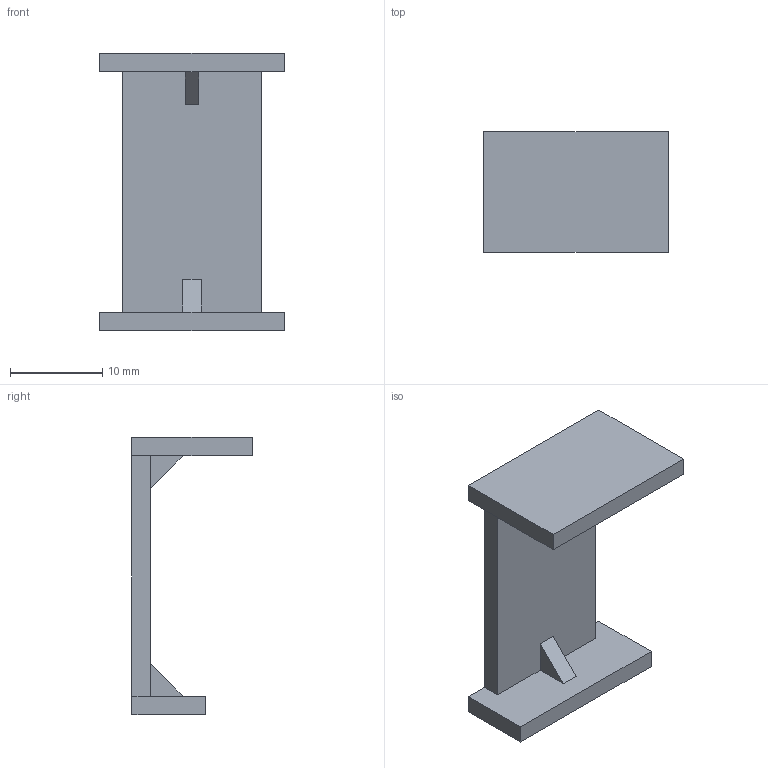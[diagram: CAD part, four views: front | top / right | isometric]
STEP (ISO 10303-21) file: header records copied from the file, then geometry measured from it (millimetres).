
FILE_DESCRIPTION (( 'STEP AP214' ), '1' );
FILE_NAME ('002310.STEP', '2022-02-21T07:36:43', ( '' ), ( '' ), 'SwSTEP 2.0', 'SolidWorks 2021', '' );
FILE_SCHEMA (( 'AUTOMOTIVE_DESIGN' ));
Length unit declared in the file: millimetre
Products named in the file (1): 002310
Bounding box: 20 x 13 x 30 mm (x, y, z)
Volume: 1641.9 mm3; surface area: 1925.8 mm2
Topology: 1 solids, 1 shells, 20 faces, 54 edges, 36 vertices
Faces by surface type: plane 20
Entity records: 652 total; most frequent: CARTESIAN_POINT 111, ORIENTED_EDGE 108, DIRECTION 96, LINE 54, EDGE_CURVE 54, VECTOR 54, VERTEX_POINT 36, AXIS2_PLACEMENT_3D 21
